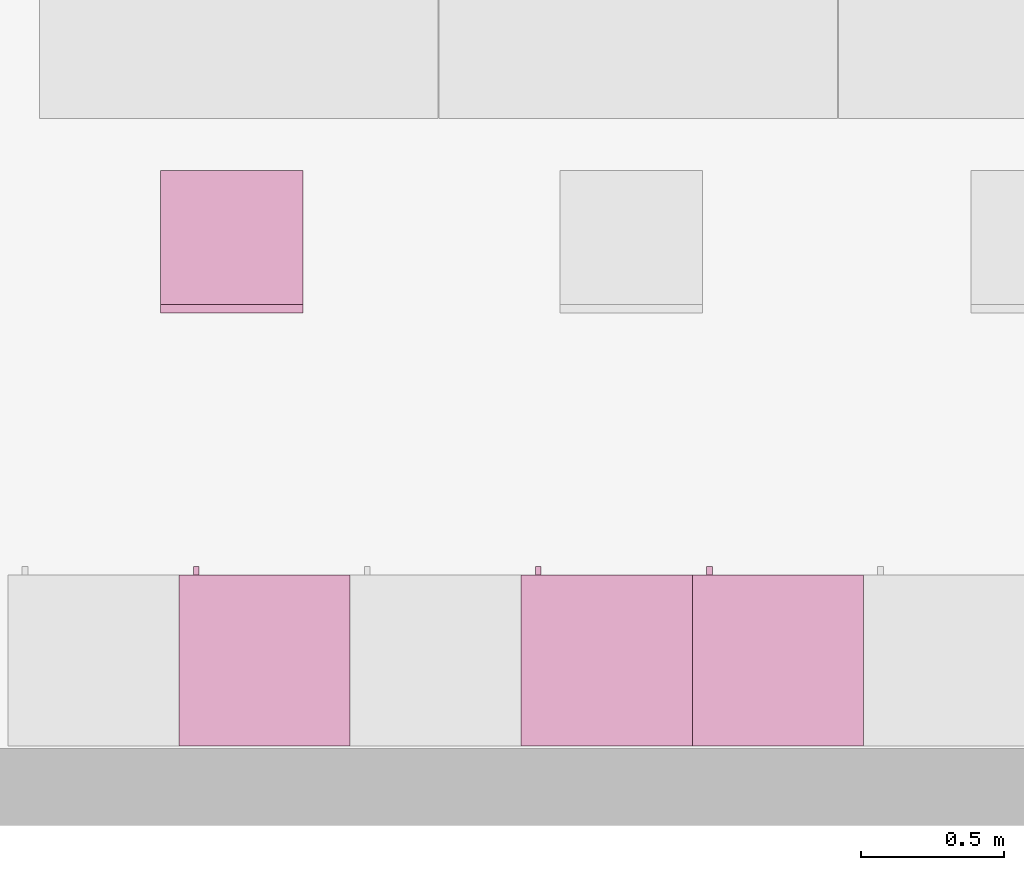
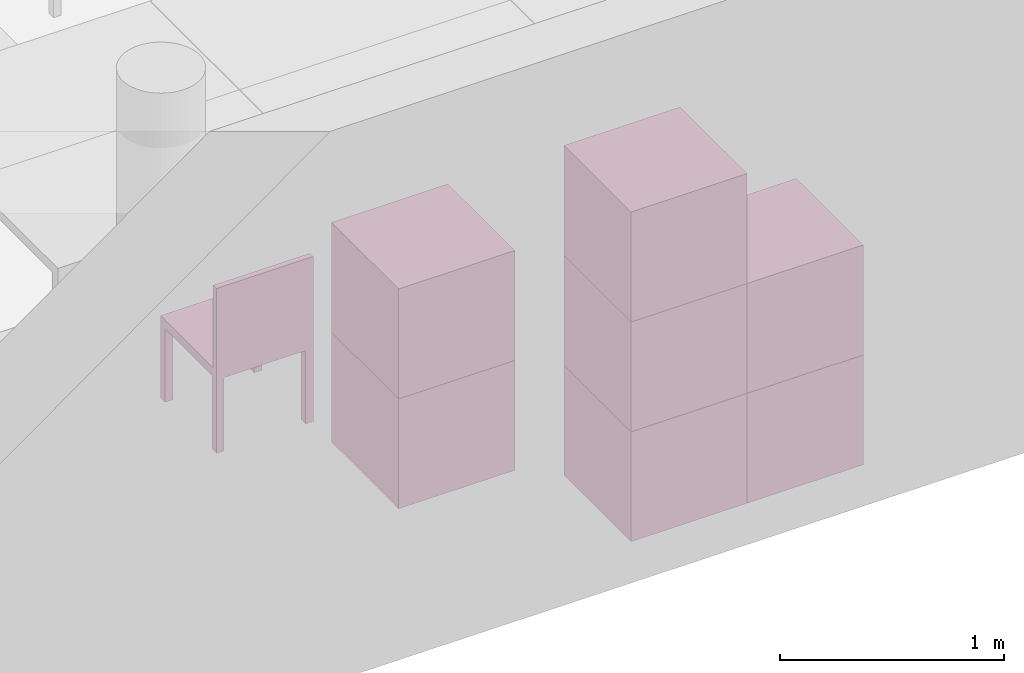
"""IFC4 building model written with IfcOpenShell, lengths in metres."""

from ifc_helpers import new_model, entity, si_unit, converted_unit, derived_unit, frame, origin, place, context, subcontext, project, spatial, faceted_brep, element, save


model = new_model("IFC4")

# Units and contexts
model_context = context("Model", 3, precision=1e-05, world=origin())
body_context = subcontext(model_context, "Body", "Model", "MODEL_VIEW")
ifc_project = project(units=[si_unit("LENGTHUNIT", "METRE"), si_unit("AREAUNIT", "SQUARE_METRE"), si_unit("VOLUMEUNIT", "CUBIC_METRE"), si_unit("MASSUNIT", "GRAM", prefix="KILO"), converted_unit("PLANEANGLEUNIT", "DEGREE", entity("IfcPlaneAngleMeasure", 0.0174532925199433), si_unit("PLANEANGLEUNIT", "RADIAN"), dimensions=[0, 0, 0, 0, 0, 0, 0]), derived_unit("THERMALTRANSMITTANCEUNIT", [(si_unit("POWERUNIT", "WATT"), 1), (si_unit("THERMODYNAMICTEMPERATUREUNIT", "KELVIN"), -1), (si_unit("LENGTHUNIT", "METRE"), -2)]), derived_unit("VOLUMETRICFLOWRATEUNIT", [(si_unit("LENGTHUNIT", "METRE"), 3), (converted_unit("TIMEUNIT", "hour", entity("IfcTimeMeasure", 3600.0), si_unit("TIMEUNIT", "SECOND"), dimensions=[0, 0, 1, 0, 0, 0, 0]), -1), (si_unit("LENGTHUNIT", "METRE"), -1)])], contexts=[model_context])

# Building, storeys
building_placement = place(None, origin())
building = spatial("IfcBuilding", under=ifc_project, at=building_placement, Name="HABITATGE PLURIFAMILIAR", CompositionType="ELEMENT")
storey_1_placement = place(building_placement, frame((0.0, 0.0, 15.28)))
storey_1 = spatial("IfcBuildingStorey", under=building, at=storey_1_placement, Name="PLANTA QUARTA", CompositionType="ELEMENT", Elevation=15.28)
storey_2_placement = place(storey_1_placement, frame((0.0, 0.0, 12.27)))
storey_2 = spatial("IfcBuildingStorey", under=storey_1, at=storey_2_placement, Name="NOU", CompositionType="PARTIAL")

# Furniture
furniture_1_placement = place(storey_2_placement, frame((412.85527037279, 13.1194598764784, -12.37)))
element("IfcFurniture", 1, at=furniture_1_placement, inside=storey_2, Name="Armai 60x60x60_P4", context=body_context, shape_type="Brep", body=[
    faceted_brep([(0.0, 0.6, 0.02), (0.0, 0.6, 0.0), (0.6, 0.6, 0.0), (0.6, 0.6, 0.02), (0.6, 0.0, 0.0), (0.6, 0.0, 0.02), (0.0, 0.0, 0.0), (0.0, 0.0, 0.02)], [[[0, 1, 2, 3]], [[3, 2, 4, 5]], [[5, 4, 6, 7]], [[7, 6, 1, 0]], [[0, 3, 5, 7]], [[1, 6, 4, 2]]], orient=[[False], [False], [False], [False], [False], [False]]),
    faceted_brep([(0.580000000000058, 0.0, 0.58), (0.580000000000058, 0.0200000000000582, 0.58), (0.580000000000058, 0.0200000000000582, 0.02), (0.580000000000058, 0.0, 0.02), (0.0200000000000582, 0.0200000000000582, 0.02), (0.0200000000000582, 0.0, 0.02), (0.0200000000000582, 0.0200000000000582, 0.58), (0.0200000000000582, 0.0, 0.58)], [[[0, 1, 2, 3]], [[3, 2, 4, 5]], [[5, 4, 6, 7]], [[7, 6, 1, 0]], [[0, 3, 5, 7]], [[1, 6, 4, 2]]], orient=[[False], [False], [False], [False], [False], [False]]),
    faceted_brep([(0.0200000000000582, 0.6, 0.58), (0.0, 0.6, 0.58), (0.0, 0.6, 0.02), (0.0200000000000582, 0.6, 0.02), (0.0, 0.0, 0.02), (0.0200000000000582, 0.0, 0.02), (0.0, 0.0, 0.58), (0.0200000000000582, 0.0, 0.58)], [[[0, 1, 2, 3]], [[3, 2, 4, 5]], [[5, 4, 6, 7]], [[7, 6, 1, 0]], [[0, 3, 5, 7]], [[1, 6, 4, 2]]], orient=[[False], [False], [False], [False], [False], [False]]),
    faceted_brep([(0.0, 0.58, 0.58), (0.0, 0.6, 0.58), (0.0, 0.6, 0.02), (0.0, 0.58, 0.02), (0.02, 0.6, 0.02), (0.02, 0.58, 0.02), (0.02, 0.6, 0.58), (0.02, 0.58, 0.58)], [[[0, 1, 2, 3]], [[3, 2, 4, 5]], [[5, 4, 6, 7]], [[7, 6, 1, 0]], [[0, 3, 5, 7]], [[1, 6, 4, 2]]], orient=[[False], [False], [False], [False], [False], [False]]),
    faceted_brep([(0.6, 0.6, 0.58), (0.58, 0.6, 0.58), (0.58, 0.6, 0.02), (0.6, 0.6, 0.02), (0.58, 0.0, 0.02), (0.6, 0.0, 0.02), (0.58, 0.0, 0.58), (0.6, 0.0, 0.58)], [[[0, 1, 2, 3]], [[3, 2, 4, 5]], [[5, 4, 6, 7]], [[7, 6, 1, 0]], [[0, 3, 5, 7]], [[1, 6, 4, 2]]], orient=[[False], [False], [False], [False], [False], [False]]),
    faceted_brep([(0.0, 0.600000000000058, 0.6), (0.0, 0.600000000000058, 0.58), (0.600000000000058, 0.600000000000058, 0.58), (0.600000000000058, 0.600000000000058, 0.6), (0.600000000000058, 0.0, 0.58), (0.600000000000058, 0.0, 0.6), (0.0, 0.0, 0.58), (0.0, 0.0, 0.6)], [[[0, 1, 2, 3]], [[3, 2, 4, 5]], [[5, 4, 6, 7]], [[7, 6, 1, 0]], [[0, 3, 5, 7]], [[1, 6, 4, 2]]], orient=[[False], [False], [False], [False], [False], [False]]),
    faceted_brep([(0.580000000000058, 0.580000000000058, 0.58), (0.580000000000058, 0.600000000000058, 0.58), (0.580000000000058, 0.600000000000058, 0.02), (0.580000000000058, 0.580000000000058, 0.02), (0.02, 0.600000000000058, 0.02), (0.02, 0.580000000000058, 0.02), (0.02, 0.600000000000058, 0.58), (0.02, 0.580000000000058, 0.58)], [[[0, 1, 2, 3]], [[3, 2, 4, 5]], [[5, 4, 6, 7]], [[7, 6, 1, 0]], [[0, 3, 5, 7]], [[1, 6, 4, 2]]], orient=[[False], [False], [False], [False], [False], [False]]),
    faceted_brep([(0.0700000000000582, 0.600000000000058, 0.358064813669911), (0.0700000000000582, 0.630000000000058, 0.358064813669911), (0.0700000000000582, 0.630000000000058, 0.258064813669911), (0.0700000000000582, 0.600000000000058, 0.258064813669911), (0.0500000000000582, 0.630000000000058, 0.258064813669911), (0.0500000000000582, 0.600000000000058, 0.258064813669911), (0.0500000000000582, 0.630000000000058, 0.358064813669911), (0.0500000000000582, 0.600000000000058, 0.358064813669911)], [[[0, 1, 2, 3]], [[3, 2, 4, 5]], [[5, 4, 6, 7]], [[7, 6, 1, 0]], [[0, 3, 5, 7]], [[1, 6, 4, 2]]], orient=[[False], [False], [False], [False], [False], [False]]),
])
furniture_2_placement = place(storey_2_placement, frame((413.45527037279, 13.1194598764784, -12.37)))
element("IfcFurniture", 2, at=furniture_2_placement, inside=storey_2, Name="Armai 60x60x60_P4", context=body_context, shape_type="Brep", body=[
    faceted_brep([(0.0, 0.6, 0.02), (0.0, 0.6, 0.0), (0.6, 0.6, 0.0), (0.6, 0.6, 0.02), (0.6, 0.0, 0.0), (0.6, 0.0, 0.02), (0.0, 0.0, 0.0), (0.0, 0.0, 0.02)], [[[0, 1, 2, 3]], [[3, 2, 4, 5]], [[5, 4, 6, 7]], [[7, 6, 1, 0]], [[0, 3, 5, 7]], [[1, 6, 4, 2]]], orient=[[False], [False], [False], [False], [False], [False]]),
    faceted_brep([(0.580000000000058, 0.0, 0.58), (0.580000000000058, 0.0200000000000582, 0.58), (0.580000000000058, 0.0200000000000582, 0.02), (0.580000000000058, 0.0, 0.02), (0.0200000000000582, 0.0200000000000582, 0.02), (0.0200000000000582, 0.0, 0.02), (0.0200000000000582, 0.0200000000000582, 0.58), (0.0200000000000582, 0.0, 0.58)], [[[0, 1, 2, 3]], [[3, 2, 4, 5]], [[5, 4, 6, 7]], [[7, 6, 1, 0]], [[0, 3, 5, 7]], [[1, 6, 4, 2]]], orient=[[False], [False], [False], [False], [False], [False]]),
    faceted_brep([(0.0200000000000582, 0.6, 0.58), (0.0, 0.6, 0.58), (0.0, 0.6, 0.02), (0.0200000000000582, 0.6, 0.02), (0.0, 0.0, 0.02), (0.0200000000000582, 0.0, 0.02), (0.0, 0.0, 0.58), (0.0200000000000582, 0.0, 0.58)], [[[0, 1, 2, 3]], [[3, 2, 4, 5]], [[5, 4, 6, 7]], [[7, 6, 1, 0]], [[0, 3, 5, 7]], [[1, 6, 4, 2]]], orient=[[False], [False], [False], [False], [False], [False]]),
    faceted_brep([(0.0, 0.58, 0.58), (0.0, 0.6, 0.58), (0.0, 0.6, 0.02), (0.0, 0.58, 0.02), (0.02, 0.6, 0.02), (0.02, 0.58, 0.02), (0.02, 0.6, 0.58), (0.02, 0.58, 0.58)], [[[0, 1, 2, 3]], [[3, 2, 4, 5]], [[5, 4, 6, 7]], [[7, 6, 1, 0]], [[0, 3, 5, 7]], [[1, 6, 4, 2]]], orient=[[False], [False], [False], [False], [False], [False]]),
    faceted_brep([(0.6, 0.6, 0.58), (0.58, 0.6, 0.58), (0.58, 0.6, 0.02), (0.6, 0.6, 0.02), (0.58, 0.0, 0.02), (0.6, 0.0, 0.02), (0.58, 0.0, 0.58), (0.6, 0.0, 0.58)], [[[0, 1, 2, 3]], [[3, 2, 4, 5]], [[5, 4, 6, 7]], [[7, 6, 1, 0]], [[0, 3, 5, 7]], [[1, 6, 4, 2]]], orient=[[False], [False], [False], [False], [False], [False]]),
    faceted_brep([(0.0, 0.600000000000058, 0.6), (0.0, 0.600000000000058, 0.58), (0.600000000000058, 0.600000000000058, 0.58), (0.600000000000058, 0.600000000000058, 0.6), (0.600000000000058, 0.0, 0.58), (0.600000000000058, 0.0, 0.6), (0.0, 0.0, 0.58), (0.0, 0.0, 0.6)], [[[0, 1, 2, 3]], [[3, 2, 4, 5]], [[5, 4, 6, 7]], [[7, 6, 1, 0]], [[0, 3, 5, 7]], [[1, 6, 4, 2]]], orient=[[False], [False], [False], [False], [False], [False]]),
    faceted_brep([(0.580000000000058, 0.580000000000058, 0.58), (0.580000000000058, 0.600000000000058, 0.58), (0.580000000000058, 0.600000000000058, 0.02), (0.580000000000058, 0.580000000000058, 0.02), (0.02, 0.600000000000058, 0.02), (0.02, 0.580000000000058, 0.02), (0.02, 0.600000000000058, 0.58), (0.02, 0.580000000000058, 0.58)], [[[0, 1, 2, 3]], [[3, 2, 4, 5]], [[5, 4, 6, 7]], [[7, 6, 1, 0]], [[0, 3, 5, 7]], [[1, 6, 4, 2]]], orient=[[False], [False], [False], [False], [False], [False]]),
    faceted_brep([(0.0700000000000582, 0.600000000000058, 0.358064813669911), (0.0700000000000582, 0.630000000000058, 0.358064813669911), (0.0700000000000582, 0.630000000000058, 0.258064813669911), (0.0700000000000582, 0.600000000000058, 0.258064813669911), (0.0500000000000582, 0.630000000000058, 0.258064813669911), (0.0500000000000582, 0.600000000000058, 0.258064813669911), (0.0500000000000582, 0.630000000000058, 0.358064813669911), (0.0500000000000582, 0.600000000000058, 0.358064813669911)], [[[0, 1, 2, 3]], [[3, 2, 4, 5]], [[5, 4, 6, 7]], [[7, 6, 1, 0]], [[0, 3, 5, 7]], [[1, 6, 4, 2]]], orient=[[False], [False], [False], [False], [False], [False]]),
])
furniture_3_placement = place(storey_2_placement, frame((412.85527037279, 13.1194598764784, -11.77)))
element("IfcFurniture", 3, at=furniture_3_placement, inside=storey_2, Name="Armai 60x60x60_P4", context=body_context, shape_type="Brep", body=[
    faceted_brep([(0.0, 0.6, 0.02), (0.0, 0.6, 0.0), (0.6, 0.6, 0.0), (0.6, 0.6, 0.02), (0.6, 0.0, 0.0), (0.6, 0.0, 0.02), (0.0, 0.0, 0.0), (0.0, 0.0, 0.02)], [[[0, 1, 2, 3]], [[3, 2, 4, 5]], [[5, 4, 6, 7]], [[7, 6, 1, 0]], [[0, 3, 5, 7]], [[1, 6, 4, 2]]], orient=[[False], [False], [False], [False], [False], [False]]),
    faceted_brep([(0.580000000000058, 0.0, 0.58), (0.580000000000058, 0.0200000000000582, 0.58), (0.580000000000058, 0.0200000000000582, 0.02), (0.580000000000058, 0.0, 0.02), (0.0200000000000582, 0.0200000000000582, 0.02), (0.0200000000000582, 0.0, 0.02), (0.0200000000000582, 0.0200000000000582, 0.58), (0.0200000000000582, 0.0, 0.58)], [[[0, 1, 2, 3]], [[3, 2, 4, 5]], [[5, 4, 6, 7]], [[7, 6, 1, 0]], [[0, 3, 5, 7]], [[1, 6, 4, 2]]], orient=[[False], [False], [False], [False], [False], [False]]),
    faceted_brep([(0.0200000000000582, 0.6, 0.58), (0.0, 0.6, 0.58), (0.0, 0.6, 0.02), (0.0200000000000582, 0.6, 0.02), (0.0, 0.0, 0.02), (0.0200000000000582, 0.0, 0.02), (0.0, 0.0, 0.58), (0.0200000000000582, 0.0, 0.58)], [[[0, 1, 2, 3]], [[3, 2, 4, 5]], [[5, 4, 6, 7]], [[7, 6, 1, 0]], [[0, 3, 5, 7]], [[1, 6, 4, 2]]], orient=[[False], [False], [False], [False], [False], [False]]),
    faceted_brep([(0.0, 0.58, 0.58), (0.0, 0.6, 0.58), (0.0, 0.6, 0.02), (0.0, 0.58, 0.02), (0.02, 0.6, 0.02), (0.02, 0.58, 0.02), (0.02, 0.6, 0.58), (0.02, 0.58, 0.58)], [[[0, 1, 2, 3]], [[3, 2, 4, 5]], [[5, 4, 6, 7]], [[7, 6, 1, 0]], [[0, 3, 5, 7]], [[1, 6, 4, 2]]], orient=[[False], [False], [False], [False], [False], [False]]),
    faceted_brep([(0.6, 0.6, 0.58), (0.58, 0.6, 0.58), (0.58, 0.6, 0.02), (0.6, 0.6, 0.02), (0.58, 0.0, 0.02), (0.6, 0.0, 0.02), (0.58, 0.0, 0.58), (0.6, 0.0, 0.58)], [[[0, 1, 2, 3]], [[3, 2, 4, 5]], [[5, 4, 6, 7]], [[7, 6, 1, 0]], [[0, 3, 5, 7]], [[1, 6, 4, 2]]], orient=[[False], [False], [False], [False], [False], [False]]),
    faceted_brep([(0.0, 0.600000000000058, 0.6), (0.0, 0.600000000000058, 0.58), (0.600000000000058, 0.600000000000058, 0.58), (0.600000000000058, 0.600000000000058, 0.6), (0.600000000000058, 0.0, 0.58), (0.600000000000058, 0.0, 0.6), (0.0, 0.0, 0.58), (0.0, 0.0, 0.6)], [[[0, 1, 2, 3]], [[3, 2, 4, 5]], [[5, 4, 6, 7]], [[7, 6, 1, 0]], [[0, 3, 5, 7]], [[1, 6, 4, 2]]], orient=[[False], [False], [False], [False], [False], [False]]),
    faceted_brep([(0.580000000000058, 0.580000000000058, 0.58), (0.580000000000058, 0.600000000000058, 0.58), (0.580000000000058, 0.600000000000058, 0.02), (0.580000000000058, 0.580000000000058, 0.02), (0.02, 0.600000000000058, 0.02), (0.02, 0.580000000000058, 0.02), (0.02, 0.600000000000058, 0.58), (0.02, 0.580000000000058, 0.58)], [[[0, 1, 2, 3]], [[3, 2, 4, 5]], [[5, 4, 6, 7]], [[7, 6, 1, 0]], [[0, 3, 5, 7]], [[1, 6, 4, 2]]], orient=[[False], [False], [False], [False], [False], [False]]),
    faceted_brep([(0.0700000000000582, 0.600000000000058, 0.358064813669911), (0.0700000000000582, 0.630000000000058, 0.358064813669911), (0.0700000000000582, 0.630000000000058, 0.258064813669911), (0.0700000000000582, 0.600000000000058, 0.258064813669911), (0.0500000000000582, 0.630000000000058, 0.258064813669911), (0.0500000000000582, 0.600000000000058, 0.258064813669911), (0.0500000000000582, 0.630000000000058, 0.358064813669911), (0.0500000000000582, 0.600000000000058, 0.358064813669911)], [[[0, 1, 2, 3]], [[3, 2, 4, 5]], [[5, 4, 6, 7]], [[7, 6, 1, 0]], [[0, 3, 5, 7]], [[1, 6, 4, 2]]], orient=[[False], [False], [False], [False], [False], [False]]),
])
furniture_4_placement = place(storey_2_placement, frame((413.45527037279, 13.1194598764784, -11.77)))
element("IfcFurniture", 4, at=furniture_4_placement, inside=storey_2, Name="Armai 60x60x60_P4", context=body_context, shape_type="Brep", body=[
    faceted_brep([(0.0, 0.6, 0.02), (0.0, 0.6, 0.0), (0.6, 0.6, 0.0), (0.6, 0.6, 0.02), (0.6, 0.0, 0.0), (0.6, 0.0, 0.02), (0.0, 0.0, 0.0), (0.0, 0.0, 0.02)], [[[0, 1, 2, 3]], [[3, 2, 4, 5]], [[5, 4, 6, 7]], [[7, 6, 1, 0]], [[0, 3, 5, 7]], [[1, 6, 4, 2]]], orient=[[False], [False], [False], [False], [False], [False]]),
    faceted_brep([(0.580000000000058, 0.0, 0.58), (0.580000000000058, 0.0200000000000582, 0.58), (0.580000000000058, 0.0200000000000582, 0.02), (0.580000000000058, 0.0, 0.02), (0.0200000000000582, 0.0200000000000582, 0.02), (0.0200000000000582, 0.0, 0.02), (0.0200000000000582, 0.0200000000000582, 0.58), (0.0200000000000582, 0.0, 0.58)], [[[0, 1, 2, 3]], [[3, 2, 4, 5]], [[5, 4, 6, 7]], [[7, 6, 1, 0]], [[0, 3, 5, 7]], [[1, 6, 4, 2]]], orient=[[False], [False], [False], [False], [False], [False]]),
    faceted_brep([(0.0200000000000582, 0.6, 0.58), (0.0, 0.6, 0.58), (0.0, 0.6, 0.02), (0.0200000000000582, 0.6, 0.02), (0.0, 0.0, 0.02), (0.0200000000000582, 0.0, 0.02), (0.0, 0.0, 0.58), (0.0200000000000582, 0.0, 0.58)], [[[0, 1, 2, 3]], [[3, 2, 4, 5]], [[5, 4, 6, 7]], [[7, 6, 1, 0]], [[0, 3, 5, 7]], [[1, 6, 4, 2]]], orient=[[False], [False], [False], [False], [False], [False]]),
    faceted_brep([(0.0, 0.58, 0.58), (0.0, 0.6, 0.58), (0.0, 0.6, 0.02), (0.0, 0.58, 0.02), (0.02, 0.6, 0.02), (0.02, 0.58, 0.02), (0.02, 0.6, 0.58), (0.02, 0.58, 0.58)], [[[0, 1, 2, 3]], [[3, 2, 4, 5]], [[5, 4, 6, 7]], [[7, 6, 1, 0]], [[0, 3, 5, 7]], [[1, 6, 4, 2]]], orient=[[False], [False], [False], [False], [False], [False]]),
    faceted_brep([(0.6, 0.6, 0.58), (0.58, 0.6, 0.58), (0.58, 0.6, 0.02), (0.6, 0.6, 0.02), (0.58, 0.0, 0.02), (0.6, 0.0, 0.02), (0.58, 0.0, 0.58), (0.6, 0.0, 0.58)], [[[0, 1, 2, 3]], [[3, 2, 4, 5]], [[5, 4, 6, 7]], [[7, 6, 1, 0]], [[0, 3, 5, 7]], [[1, 6, 4, 2]]], orient=[[False], [False], [False], [False], [False], [False]]),
    faceted_brep([(0.0, 0.600000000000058, 0.6), (0.0, 0.600000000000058, 0.58), (0.600000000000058, 0.600000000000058, 0.58), (0.600000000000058, 0.600000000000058, 0.6), (0.600000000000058, 0.0, 0.58), (0.600000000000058, 0.0, 0.6), (0.0, 0.0, 0.58), (0.0, 0.0, 0.6)], [[[0, 1, 2, 3]], [[3, 2, 4, 5]], [[5, 4, 6, 7]], [[7, 6, 1, 0]], [[0, 3, 5, 7]], [[1, 6, 4, 2]]], orient=[[False], [False], [False], [False], [False], [False]]),
    faceted_brep([(0.580000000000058, 0.580000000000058, 0.58), (0.580000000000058, 0.600000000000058, 0.58), (0.580000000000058, 0.600000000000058, 0.02), (0.580000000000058, 0.580000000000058, 0.02), (0.02, 0.600000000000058, 0.02), (0.02, 0.580000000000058, 0.02), (0.02, 0.600000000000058, 0.58), (0.02, 0.580000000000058, 0.58)], [[[0, 1, 2, 3]], [[3, 2, 4, 5]], [[5, 4, 6, 7]], [[7, 6, 1, 0]], [[0, 3, 5, 7]], [[1, 6, 4, 2]]], orient=[[False], [False], [False], [False], [False], [False]]),
    faceted_brep([(0.0700000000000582, 0.600000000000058, 0.358064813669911), (0.0700000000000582, 0.630000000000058, 0.358064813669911), (0.0700000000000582, 0.630000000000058, 0.258064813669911), (0.0700000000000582, 0.600000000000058, 0.258064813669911), (0.0500000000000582, 0.630000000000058, 0.258064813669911), (0.0500000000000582, 0.600000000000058, 0.258064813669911), (0.0500000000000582, 0.630000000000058, 0.358064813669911), (0.0500000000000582, 0.600000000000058, 0.358064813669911)], [[[0, 1, 2, 3]], [[3, 2, 4, 5]], [[5, 4, 6, 7]], [[7, 6, 1, 0]], [[0, 3, 5, 7]], [[1, 6, 4, 2]]], orient=[[False], [False], [False], [False], [False], [False]]),
])
furniture_5_placement = place(storey_2_placement, frame((412.85527037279, 13.1194598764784, -11.17)))
element("IfcFurniture", 5, at=furniture_5_placement, inside=storey_2, Name="Armai 60x60x60_P4", context=body_context, shape_type="Brep", body=[
    faceted_brep([(0.0, 0.6, 0.02), (0.0, 0.6, 0.0), (0.6, 0.6, 0.0), (0.6, 0.6, 0.02), (0.6, 0.0, 0.0), (0.6, 0.0, 0.02), (0.0, 0.0, 0.0), (0.0, 0.0, 0.02)], [[[0, 1, 2, 3]], [[3, 2, 4, 5]], [[5, 4, 6, 7]], [[7, 6, 1, 0]], [[0, 3, 5, 7]], [[1, 6, 4, 2]]], orient=[[False], [False], [False], [False], [False], [False]]),
    faceted_brep([(0.580000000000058, 0.0, 0.58), (0.580000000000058, 0.0200000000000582, 0.58), (0.580000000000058, 0.0200000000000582, 0.02), (0.580000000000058, 0.0, 0.02), (0.0200000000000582, 0.0200000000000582, 0.02), (0.0200000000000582, 0.0, 0.02), (0.0200000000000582, 0.0200000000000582, 0.58), (0.0200000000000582, 0.0, 0.58)], [[[0, 1, 2, 3]], [[3, 2, 4, 5]], [[5, 4, 6, 7]], [[7, 6, 1, 0]], [[0, 3, 5, 7]], [[1, 6, 4, 2]]], orient=[[False], [False], [False], [False], [False], [False]]),
    faceted_brep([(0.0200000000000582, 0.6, 0.58), (0.0, 0.6, 0.58), (0.0, 0.6, 0.02), (0.0200000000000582, 0.6, 0.02), (0.0, 0.0, 0.02), (0.0200000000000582, 0.0, 0.02), (0.0, 0.0, 0.58), (0.0200000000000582, 0.0, 0.58)], [[[0, 1, 2, 3]], [[3, 2, 4, 5]], [[5, 4, 6, 7]], [[7, 6, 1, 0]], [[0, 3, 5, 7]], [[1, 6, 4, 2]]], orient=[[False], [False], [False], [False], [False], [False]]),
    faceted_brep([(0.0, 0.58, 0.58), (0.0, 0.6, 0.58), (0.0, 0.6, 0.02), (0.0, 0.58, 0.02), (0.02, 0.6, 0.02), (0.02, 0.58, 0.02), (0.02, 0.6, 0.58), (0.02, 0.58, 0.58)], [[[0, 1, 2, 3]], [[3, 2, 4, 5]], [[5, 4, 6, 7]], [[7, 6, 1, 0]], [[0, 3, 5, 7]], [[1, 6, 4, 2]]], orient=[[False], [False], [False], [False], [False], [False]]),
    faceted_brep([(0.6, 0.6, 0.58), (0.58, 0.6, 0.58), (0.58, 0.6, 0.02), (0.6, 0.6, 0.02), (0.58, 0.0, 0.02), (0.6, 0.0, 0.02), (0.58, 0.0, 0.58), (0.6, 0.0, 0.58)], [[[0, 1, 2, 3]], [[3, 2, 4, 5]], [[5, 4, 6, 7]], [[7, 6, 1, 0]], [[0, 3, 5, 7]], [[1, 6, 4, 2]]], orient=[[False], [False], [False], [False], [False], [False]]),
    faceted_brep([(0.0, 0.600000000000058, 0.6), (0.0, 0.600000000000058, 0.58), (0.600000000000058, 0.600000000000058, 0.58), (0.600000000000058, 0.600000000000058, 0.6), (0.600000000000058, 0.0, 0.58), (0.600000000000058, 0.0, 0.6), (0.0, 0.0, 0.58), (0.0, 0.0, 0.6)], [[[0, 1, 2, 3]], [[3, 2, 4, 5]], [[5, 4, 6, 7]], [[7, 6, 1, 0]], [[0, 3, 5, 7]], [[1, 6, 4, 2]]], orient=[[False], [False], [False], [False], [False], [False]]),
    faceted_brep([(0.580000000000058, 0.580000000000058, 0.58), (0.580000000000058, 0.600000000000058, 0.58), (0.580000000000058, 0.600000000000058, 0.02), (0.580000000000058, 0.580000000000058, 0.02), (0.02, 0.600000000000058, 0.02), (0.02, 0.580000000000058, 0.02), (0.02, 0.600000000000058, 0.58), (0.02, 0.580000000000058, 0.58)], [[[0, 1, 2, 3]], [[3, 2, 4, 5]], [[5, 4, 6, 7]], [[7, 6, 1, 0]], [[0, 3, 5, 7]], [[1, 6, 4, 2]]], orient=[[False], [False], [False], [False], [False], [False]]),
    faceted_brep([(0.0700000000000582, 0.600000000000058, 0.358064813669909), (0.0700000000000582, 0.630000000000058, 0.358064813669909), (0.0700000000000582, 0.630000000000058, 0.258064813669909), (0.0700000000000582, 0.600000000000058, 0.258064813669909), (0.0500000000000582, 0.630000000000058, 0.258064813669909), (0.0500000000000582, 0.600000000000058, 0.258064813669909), (0.0500000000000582, 0.630000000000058, 0.358064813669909), (0.0500000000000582, 0.600000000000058, 0.358064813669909)], [[[0, 1, 2, 3]], [[3, 2, 4, 5]], [[5, 4, 6, 7]], [[7, 6, 1, 0]], [[0, 3, 5, 7]], [[1, 6, 4, 2]]], orient=[[False], [False], [False], [False], [False], [False]]),
])
furniture_6_placement = place(storey_2_placement, frame((411.65527037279, 13.1194598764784, -11.77)))
element("IfcFurniture", 6, at=furniture_6_placement, inside=storey_2, Name="Armai 60x60x60_P4", context=body_context, shape_type="Brep", body=[
    faceted_brep([(0.0, 0.6, 0.02), (0.0, 0.6, 0.0), (0.6, 0.6, 0.0), (0.6, 0.6, 0.02), (0.6, 0.0, 0.0), (0.6, 0.0, 0.02), (0.0, 0.0, 0.0), (0.0, 0.0, 0.02)], [[[0, 1, 2, 3]], [[3, 2, 4, 5]], [[5, 4, 6, 7]], [[7, 6, 1, 0]], [[0, 3, 5, 7]], [[1, 6, 4, 2]]], orient=[[False], [False], [False], [False], [False], [False]]),
    faceted_brep([(0.580000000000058, 0.0, 0.58), (0.580000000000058, 0.0200000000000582, 0.58), (0.580000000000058, 0.0200000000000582, 0.02), (0.580000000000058, 0.0, 0.02), (0.0200000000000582, 0.0200000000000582, 0.02), (0.0200000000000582, 0.0, 0.02), (0.0200000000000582, 0.0200000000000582, 0.58), (0.0200000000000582, 0.0, 0.58)], [[[0, 1, 2, 3]], [[3, 2, 4, 5]], [[5, 4, 6, 7]], [[7, 6, 1, 0]], [[0, 3, 5, 7]], [[1, 6, 4, 2]]], orient=[[False], [False], [False], [False], [False], [False]]),
    faceted_brep([(0.0200000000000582, 0.6, 0.58), (0.0, 0.6, 0.58), (0.0, 0.6, 0.02), (0.0200000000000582, 0.6, 0.02), (0.0, 0.0, 0.02), (0.0200000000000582, 0.0, 0.02), (0.0, 0.0, 0.58), (0.0200000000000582, 0.0, 0.58)], [[[0, 1, 2, 3]], [[3, 2, 4, 5]], [[5, 4, 6, 7]], [[7, 6, 1, 0]], [[0, 3, 5, 7]], [[1, 6, 4, 2]]], orient=[[False], [False], [False], [False], [False], [False]]),
    faceted_brep([(0.0, 0.58, 0.58), (0.0, 0.6, 0.58), (0.0, 0.6, 0.02), (0.0, 0.58, 0.02), (0.02, 0.6, 0.02), (0.02, 0.58, 0.02), (0.02, 0.6, 0.58), (0.02, 0.58, 0.58)], [[[0, 1, 2, 3]], [[3, 2, 4, 5]], [[5, 4, 6, 7]], [[7, 6, 1, 0]], [[0, 3, 5, 7]], [[1, 6, 4, 2]]], orient=[[False], [False], [False], [False], [False], [False]]),
    faceted_brep([(0.6, 0.6, 0.58), (0.58, 0.6, 0.58), (0.58, 0.6, 0.02), (0.6, 0.6, 0.02), (0.58, 0.0, 0.02), (0.6, 0.0, 0.02), (0.58, 0.0, 0.58), (0.6, 0.0, 0.58)], [[[0, 1, 2, 3]], [[3, 2, 4, 5]], [[5, 4, 6, 7]], [[7, 6, 1, 0]], [[0, 3, 5, 7]], [[1, 6, 4, 2]]], orient=[[False], [False], [False], [False], [False], [False]]),
    faceted_brep([(0.0, 0.600000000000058, 0.6), (0.0, 0.600000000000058, 0.58), (0.600000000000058, 0.600000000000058, 0.58), (0.600000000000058, 0.600000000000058, 0.6), (0.600000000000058, 0.0, 0.58), (0.600000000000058, 0.0, 0.6), (0.0, 0.0, 0.58), (0.0, 0.0, 0.6)], [[[0, 1, 2, 3]], [[3, 2, 4, 5]], [[5, 4, 6, 7]], [[7, 6, 1, 0]], [[0, 3, 5, 7]], [[1, 6, 4, 2]]], orient=[[False], [False], [False], [False], [False], [False]]),
    faceted_brep([(0.580000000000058, 0.580000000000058, 0.58), (0.580000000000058, 0.600000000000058, 0.58), (0.580000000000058, 0.600000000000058, 0.02), (0.580000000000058, 0.580000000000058, 0.02), (0.02, 0.600000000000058, 0.02), (0.02, 0.580000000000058, 0.02), (0.02, 0.600000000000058, 0.58), (0.02, 0.580000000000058, 0.58)], [[[0, 1, 2, 3]], [[3, 2, 4, 5]], [[5, 4, 6, 7]], [[7, 6, 1, 0]], [[0, 3, 5, 7]], [[1, 6, 4, 2]]], orient=[[False], [False], [False], [False], [False], [False]]),
    faceted_brep([(0.0700000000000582, 0.600000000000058, 0.358064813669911), (0.0700000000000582, 0.630000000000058, 0.358064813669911), (0.0700000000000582, 0.630000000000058, 0.258064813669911), (0.0700000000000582, 0.600000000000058, 0.258064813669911), (0.0500000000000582, 0.630000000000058, 0.258064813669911), (0.0500000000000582, 0.600000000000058, 0.258064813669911), (0.0500000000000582, 0.630000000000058, 0.358064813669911), (0.0500000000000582, 0.600000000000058, 0.358064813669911)], [[[0, 1, 2, 3]], [[3, 2, 4, 5]], [[5, 4, 6, 7]], [[7, 6, 1, 0]], [[0, 3, 5, 7]], [[1, 6, 4, 2]]], orient=[[False], [False], [False], [False], [False], [False]]),
])
furniture_7_placement = place(storey_2_placement, frame((411.65527037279, 13.1194598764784, -11.17)))
element("IfcFurniture", 7, at=furniture_7_placement, inside=storey_2, Name="Armai 60x60x60_P4", context=body_context, shape_type="Brep", body=[
    faceted_brep([(0.0, 0.6, 0.02), (0.0, 0.6, 0.0), (0.6, 0.6, 0.0), (0.6, 0.6, 0.02), (0.6, 0.0, 0.0), (0.6, 0.0, 0.02), (0.0, 0.0, 0.0), (0.0, 0.0, 0.02)], [[[0, 1, 2, 3]], [[3, 2, 4, 5]], [[5, 4, 6, 7]], [[7, 6, 1, 0]], [[0, 3, 5, 7]], [[1, 6, 4, 2]]], orient=[[False], [False], [False], [False], [False], [False]]),
    faceted_brep([(0.580000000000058, 0.0, 0.58), (0.580000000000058, 0.0200000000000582, 0.58), (0.580000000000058, 0.0200000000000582, 0.02), (0.580000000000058, 0.0, 0.02), (0.0200000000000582, 0.0200000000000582, 0.02), (0.0200000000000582, 0.0, 0.02), (0.0200000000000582, 0.0200000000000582, 0.58), (0.0200000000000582, 0.0, 0.58)], [[[0, 1, 2, 3]], [[3, 2, 4, 5]], [[5, 4, 6, 7]], [[7, 6, 1, 0]], [[0, 3, 5, 7]], [[1, 6, 4, 2]]], orient=[[False], [False], [False], [False], [False], [False]]),
    faceted_brep([(0.0200000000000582, 0.6, 0.58), (0.0, 0.6, 0.58), (0.0, 0.6, 0.02), (0.0200000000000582, 0.6, 0.02), (0.0, 0.0, 0.02), (0.0200000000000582, 0.0, 0.02), (0.0, 0.0, 0.58), (0.0200000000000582, 0.0, 0.58)], [[[0, 1, 2, 3]], [[3, 2, 4, 5]], [[5, 4, 6, 7]], [[7, 6, 1, 0]], [[0, 3, 5, 7]], [[1, 6, 4, 2]]], orient=[[False], [False], [False], [False], [False], [False]]),
    faceted_brep([(0.0, 0.58, 0.58), (0.0, 0.6, 0.58), (0.0, 0.6, 0.02), (0.0, 0.58, 0.02), (0.02, 0.6, 0.02), (0.02, 0.58, 0.02), (0.02, 0.6, 0.58), (0.02, 0.58, 0.58)], [[[0, 1, 2, 3]], [[3, 2, 4, 5]], [[5, 4, 6, 7]], [[7, 6, 1, 0]], [[0, 3, 5, 7]], [[1, 6, 4, 2]]], orient=[[False], [False], [False], [False], [False], [False]]),
    faceted_brep([(0.6, 0.6, 0.58), (0.58, 0.6, 0.58), (0.58, 0.6, 0.02), (0.6, 0.6, 0.02), (0.58, 0.0, 0.02), (0.6, 0.0, 0.02), (0.58, 0.0, 0.58), (0.6, 0.0, 0.58)], [[[0, 1, 2, 3]], [[3, 2, 4, 5]], [[5, 4, 6, 7]], [[7, 6, 1, 0]], [[0, 3, 5, 7]], [[1, 6, 4, 2]]], orient=[[False], [False], [False], [False], [False], [False]]),
    faceted_brep([(0.0, 0.600000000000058, 0.6), (0.0, 0.600000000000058, 0.58), (0.600000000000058, 0.600000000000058, 0.58), (0.600000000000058, 0.600000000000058, 0.6), (0.600000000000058, 0.0, 0.58), (0.600000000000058, 0.0, 0.6), (0.0, 0.0, 0.58), (0.0, 0.0, 0.6)], [[[0, 1, 2, 3]], [[3, 2, 4, 5]], [[5, 4, 6, 7]], [[7, 6, 1, 0]], [[0, 3, 5, 7]], [[1, 6, 4, 2]]], orient=[[False], [False], [False], [False], [False], [False]]),
    faceted_brep([(0.580000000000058, 0.580000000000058, 0.58), (0.580000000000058, 0.600000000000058, 0.58), (0.580000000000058, 0.600000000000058, 0.02), (0.580000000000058, 0.580000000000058, 0.02), (0.02, 0.600000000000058, 0.02), (0.02, 0.580000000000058, 0.02), (0.02, 0.600000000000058, 0.58), (0.02, 0.580000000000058, 0.58)], [[[0, 1, 2, 3]], [[3, 2, 4, 5]], [[5, 4, 6, 7]], [[7, 6, 1, 0]], [[0, 3, 5, 7]], [[1, 6, 4, 2]]], orient=[[False], [False], [False], [False], [False], [False]]),
    faceted_brep([(0.0700000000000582, 0.600000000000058, 0.358064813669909), (0.0700000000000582, 0.630000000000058, 0.358064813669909), (0.0700000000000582, 0.630000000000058, 0.258064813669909), (0.0700000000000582, 0.600000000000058, 0.258064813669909), (0.0500000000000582, 0.630000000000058, 0.258064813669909), (0.0500000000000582, 0.600000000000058, 0.258064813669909), (0.0500000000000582, 0.630000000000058, 0.358064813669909), (0.0500000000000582, 0.600000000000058, 0.358064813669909)], [[[0, 1, 2, 3]], [[3, 2, 4, 5]], [[5, 4, 6, 7]], [[7, 6, 1, 0]], [[0, 3, 5, 7]], [[1, 6, 4, 2]]], orient=[[False], [False], [False], [False], [False], [False]]),
])
furniture_8_placement = place(storey_2_placement, frame((411.590520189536, 14.6372469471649, -12.3653305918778)))
element("IfcFurniture", 8, at=furniture_8_placement, inside=storey_2, Name="Cadira d'Oficina_P4", context=body_context, shape_type="Brep", body=[
    faceted_brep([(0.5, 0.5, 0.399999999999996), (0.0, 0.500000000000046, 0.399999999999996), (0.0, 0.0, 0.399999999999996), (0.5, 0.0, 0.399999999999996), (0.5, 0.0, 0.449999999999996), (0.0, 0.0, 0.449999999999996), (0.0, 0.500000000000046, 0.449999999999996), (0.5, 0.5, 0.449999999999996)], [[[0, 1, 2, 3]], [[4, 5, 6, 7]], [[3, 4, 7, 0]], [[2, 5, 4, 3]], [[1, 6, 5, 2]], [[0, 7, 6, 1]]], orient=[[False], [False], [False], [False], [False], [False]]),
    faceted_brep([(0.0, 0.0400000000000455, 0.0), (0.0, 0.0, 0.0), (0.04, 0.0, 0.0), (0.04, 0.0400000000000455, 0.0), (0.04, 0.0400000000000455, 0.4), (0.04, 0.0, 0.4), (0.0, 0.0, 0.4), (0.0, 0.0400000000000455, 0.4)], [[[0, 1, 2, 3]], [[4, 5, 6, 7]], [[3, 4, 7, 0]], [[2, 5, 4, 3]], [[1, 6, 5, 2]], [[0, 7, 6, 1]]], orient=[[False], [False], [False], [False], [False], [False]]),
    faceted_brep([(0.0, 0.500000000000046, 0.0), (0.0, 0.460000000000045, 0.0), (0.04, 0.460000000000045, 0.0), (0.04, 0.500000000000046, 0.0), (0.04, 0.500000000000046, 0.4), (0.04, 0.460000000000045, 0.4), (0.0, 0.460000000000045, 0.4), (0.0, 0.500000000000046, 0.4)], [[[0, 1, 2, 3]], [[4, 5, 6, 7]], [[3, 4, 7, 0]], [[2, 5, 4, 3]], [[1, 6, 5, 2]], [[0, 7, 6, 1]]], orient=[[False], [False], [False], [False], [False], [False]]),
    faceted_brep([(0.46, 0.04, 0.0), (0.46, 0.0, 0.0), (0.5, 0.0, 0.0), (0.5, 0.04, 0.0), (0.5, 0.04, 0.4), (0.5, 0.0, 0.4), (0.46, 0.0, 0.4), (0.46, 0.04, 0.4)], [[[0, 1, 2, 3]], [[4, 5, 6, 7]], [[3, 4, 7, 0]], [[2, 5, 4, 3]], [[1, 6, 5, 2]], [[0, 7, 6, 1]]], orient=[[False], [False], [False], [False], [False], [False]]),
    faceted_brep([(0.46, 0.5, 0.0), (0.46, 0.46, 0.0), (0.5, 0.46, 0.0), (0.5, 0.5, 0.0), (0.5, 0.5, 0.4), (0.5, 0.46, 0.4), (0.46, 0.46, 0.4), (0.46, 0.5, 0.4)], [[[0, 1, 2, 3]], [[4, 5, 6, 7]], [[3, 4, 7, 0]], [[2, 5, 4, 3]], [[1, 6, 5, 2]], [[0, 7, 6, 1]]], orient=[[False], [False], [False], [False], [False], [False]]),
    faceted_brep([(0.0, 0.0300000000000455, 0.45), (0.0, 0.0, 0.45), (0.5, 0.0, 0.45), (0.5, 0.03, 0.45), (0.5, 0.03, 0.9), (0.5, 0.0, 0.9), (0.0, 0.0, 0.9), (0.0, 0.0300000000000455, 0.9)], [[[0, 1, 2, 3]], [[4, 5, 6, 7]], [[3, 4, 7, 0]], [[2, 5, 4, 3]], [[1, 6, 5, 2]], [[0, 7, 6, 1]]], orient=[[False], [False], [False], [False], [False], [False]]),
])

save(model, "model.ifc")
